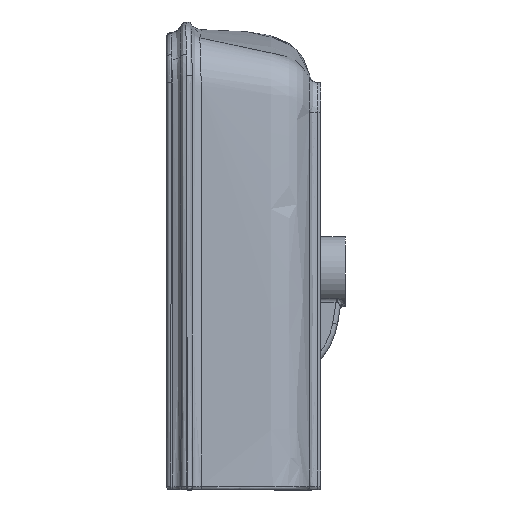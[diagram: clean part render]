
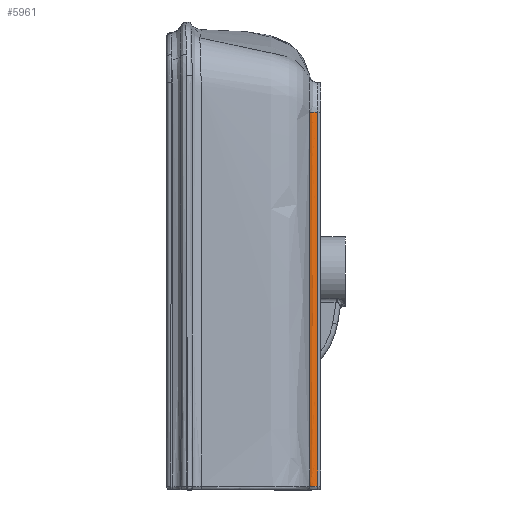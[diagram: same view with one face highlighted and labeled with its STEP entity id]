
A CAD part, left-side view. The second image highlights one B-rep face of the part: STEP entity #5961.
In plain terms, the highlighted free-form (B-spline) face has degree [3, 2] with [6, 3] control points.
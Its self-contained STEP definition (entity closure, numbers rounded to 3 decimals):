
#24 = CARTESIAN_POINT ( 'NONE',  ( -406.659, -144.322, -218.257 ) ) ;
#140 = EDGE_CURVE ( 'NONE', #6174, #13258, #384, .T. ) ;
#217 = CARTESIAN_POINT ( 'NONE',  ( -400., -145.471, 96.431 ) ) ;
#384 = CIRCLE ( 'NONE', #8753, 8. ) ;
#801 = CARTESIAN_POINT ( 'NONE',  ( -400., -152.213, 34.667 ) ) ;
#869 = ORIENTED_EDGE ( 'NONE', *, *, #10514, .F. ) ;
#1191 = CARTESIAN_POINT ( 'NONE',  ( -406.703, -144.339, -92.172 ) ) ;
#1506 = CARTESIAN_POINT ( 'NONE',  ( -406.667, -144.325, 34.659 ) ) ;
#1567 = B_SPLINE_CURVE_WITH_KNOTS ( 'NONE', 3,
 ( #11290, #10249, #801, #4994, #11361, #3963 ),
 .UNSPECIFIED., .F., .F.,
 ( 4, 2, 4 ),
 ( 0., 0.188, 0.376 ),
 .UNSPECIFIED. ) ;
#1957 = CARTESIAN_POINT ( 'NONE',  ( -400.966, -148.391, -216. ) ) ;
#2079 = CARTESIAN_POINT ( 'NONE',  ( -405.744, -144.52, -216.001 ) ) ;
#2338 = CARTESIAN_POINT ( 'NONE',  ( -400., -152.221, -155.215 ) ) ;
#2521 = CARTESIAN_POINT ( 'NONE',  ( -406.682, -144.331, -153.336 ) ) ;
#2832 = ORIENTED_EDGE ( 'NONE', *, *, #7782, .T. ) ;
#2915 = CARTESIAN_POINT ( 'NONE',  ( -400.205, -150.35, -216. ) ) ;
#2991 = EDGE_LOOP ( 'NONE', ( #869, #2832, #11292, #13119 ) ) ;
#3045 = CARTESIAN_POINT ( 'NONE',  ( -400.042, -151.267, -216. ) ) ;
#3181 = CARTESIAN_POINT ( 'NONE',  ( -400., -145.454, -218.257 ) ) ;
#3372 = CARTESIAN_POINT ( 'NONE',  ( -400., -152.18, 96.957 ) ) ;
#3563 = CARTESIAN_POINT ( 'NONE',  ( -406.66, -144.322, -216.001 ) ) ;
#3589 = CARTESIAN_POINT ( 'NONE',  ( -400., -152.091, 160. ) ) ;
#3963 = CARTESIAN_POINT ( 'NONE',  ( -400., -152.209, -216. ) ) ;
#4020 = CARTESIAN_POINT ( 'NONE',  ( -400.568, -149.24, -216. ) ) ;
#4048 =( BOUNDED_SURFACE ( )  B_SPLINE_SURFACE ( 3, 2, ( 
 ( #5319, #9600, #4345 ),
 ( #3372, #217, #10575 ),
 ( #11743, #4282, #9729 ),
 ( #12057, #8491, #1191 ),
 ( #2338, #12643, #12708 ),
 ( #10705, #3181, #24 ) ),
 .UNSPECIFIED., .F., .F., .T. ) 
 B_SPLINE_SURFACE_WITH_KNOTS ( ( 4, 2, 4 ),
 ( 3, 3 ),
 ( 0., 0.189, 0.378 ),
 ( 0., 1. ),
 .UNSPECIFIED. ) 
 GEOMETRIC_REPRESENTATION_ITEM ( )  RATIONAL_B_SPLINE_SURFACE ( (
 ( 1., 0.772, 1.),
 ( 1., 0.766, 1.),
 ( 1., 0.764, 1.),
 ( 1., 0.762, 1.),
 ( 1., 0.763, 1.),
 ( 1., 0.764, 1.) ) ) 
 REPRESENTATION_ITEM ( '' )  SURFACE ( )  );
#4086 = CARTESIAN_POINT ( 'NONE',  ( -401.317, -147.787, -216. ) ) ;
#4148 = CARTESIAN_POINT ( 'NONE',  ( -402.04, -146.868, -216.001 ) ) ;
#4207 = VERTEX_POINT ( 'NONE', #5335 ) ;
#4266 = DIRECTION ( 'NONE',  ( 0., -1., 0.001 ) ) ;
#4282 = CARTESIAN_POINT ( 'NONE',  ( -400., -145.451, 33.852 ) ) ;
#4345 = CARTESIAN_POINT ( 'NONE',  ( -406.452, -144.242, 159.989 ) ) ;
#4595 = CARTESIAN_POINT ( 'NONE',  ( -406.607, -144.3, 97.324 ) ) ;
#4994 = CARTESIAN_POINT ( 'NONE',  ( -400., -152.233, -90.667 ) ) ;
#5119 = CARTESIAN_POINT ( 'NONE',  ( -404.868, -144.833, -216.001 ) ) ;
#5183 = CARTESIAN_POINT ( 'NONE',  ( -406.195, -144.401, -216.001 ) ) ;
#5300 = CARTESIAN_POINT ( 'NONE',  ( -408., -152.091, 160. ) ) ;
#5319 = CARTESIAN_POINT ( 'NONE',  ( -400., -152.091, 160. ) ) ;
#5335 = CARTESIAN_POINT ( 'NONE',  ( -400., -152.209, -216. ) ) ;
#5961 = ADVANCED_FACE ( 'NONE', ( #7252 ), #4048, .F. ) ;
#6099 = CARTESIAN_POINT ( 'NONE',  ( -403.241, -145.762, -216.001 ) ) ;
#6174 = VERTEX_POINT ( 'NONE', #3589 ) ;
#6407 = DIRECTION ( 'NONE',  ( 0., 0.001, 1. ) ) ;
#6777 = VERTEX_POINT ( 'NONE', #11855 ) ;
#7065 = CARTESIAN_POINT ( 'NONE',  ( -406.452, -144.242, 159.989 ) ) ;
#7186 = CARTESIAN_POINT ( 'NONE',  ( -400., -151.737, -216. ) ) ;
#7252 = FACE_OUTER_BOUND ( 'NONE', #2991, .T. ) ;
#7311 = CARTESIAN_POINT ( 'NONE',  ( -400.858, -148.597, -216. ) ) ;
#7782 = EDGE_CURVE ( 'NONE', #6777, #4207, #7967, .T. ) ;
#7967 = B_SPLINE_CURVE_WITH_KNOTS ( 'NONE', 3,
 ( #10308, #5183, #2079, #5119, #9402, #13611, #6099, #9467, #9199, #11478, #4148, #11345, #4086, #1957, #7311, #9342, #4020, #12570, #2915, #3045, #7186, #13544 ),
 .UNSPECIFIED., .F., .F.,
 ( 4, 2, 2, 2, 2, 2, 2, 2, 2, 2, 4 ),
 ( 0., 0.001, 0.003, 0.004, 0.005, 0.006, 0.007, 0.008, 0.008, 0.01, 0.011 ),
 .UNSPECIFIED. ) ;
#8491 = CARTESIAN_POINT ( 'NONE',  ( -400., -145.44, -92.231 ) ) ;
#8753 = AXIS2_PLACEMENT_3D ( 'NONE', #5300, #6407, #4266 ) ;
#8955 = CARTESIAN_POINT ( 'NONE',  ( -406.452, -144.242, 159.989 ) ) ;
#9114 = B_SPLINE_CURVE_WITH_KNOTS ( 'NONE', 3,
 ( #3563, #2521, #9925, #1506, #4595, #8955 ),
 .UNSPECIFIED., .F., .F.,
 ( 4, 2, 4 ),
 ( 0.004, 0.192, 0.38 ),
 .UNSPECIFIED. ) ;
#9199 = CARTESIAN_POINT ( 'NONE',  ( -402.532, -146.365, -216.001 ) ) ;
#9342 = CARTESIAN_POINT ( 'NONE',  ( -400.659, -149.022, -216. ) ) ;
#9402 = CARTESIAN_POINT ( 'NONE',  ( -404.441, -145.029, -216.001 ) ) ;
#9467 = CARTESIAN_POINT ( 'NONE',  ( -402.705, -146.208, -216.001 ) ) ;
#9600 = CARTESIAN_POINT ( 'NONE',  ( -400., -145.515, 159.991 ) ) ;
#9729 = CARTESIAN_POINT ( 'NONE',  ( -406.668, -144.325, 33.911 ) ) ;
#9925 = CARTESIAN_POINT ( 'NONE',  ( -406.703, -144.339, -90.671 ) ) ;
#10249 = CARTESIAN_POINT ( 'NONE',  ( -400., -152.18, 97.333 ) ) ;
#10308 = CARTESIAN_POINT ( 'NONE',  ( -406.66, -144.322, -216.001 ) ) ;
#10514 = EDGE_CURVE ( 'NONE', #6777, #13258, #9114, .T. ) ;
#10575 = CARTESIAN_POINT ( 'NONE',  ( -406.608, -144.301, 96.95 ) ) ;
#10705 = CARTESIAN_POINT ( 'NONE',  ( -400., -152.209, -218.258 ) ) ;
#11290 = CARTESIAN_POINT ( 'NONE',  ( -400., -152.091, 160. ) ) ;
#11292 = ORIENTED_EDGE ( 'NONE', *, *, #13295, .F. ) ;
#11345 = CARTESIAN_POINT ( 'NONE',  ( -401.585, -147.406, -216. ) ) ;
#11361 = CARTESIAN_POINT ( 'NONE',  ( -400., -152.221, -153.333 ) ) ;
#11478 = CARTESIAN_POINT ( 'NONE',  ( -402.2, -146.694, -216.001 ) ) ;
#11743 = CARTESIAN_POINT ( 'NONE',  ( -400., -152.213, 33.914 ) ) ;
#11855 = CARTESIAN_POINT ( 'NONE',  ( -406.66, -144.322, -216.001 ) ) ;
#12057 = CARTESIAN_POINT ( 'NONE',  ( -400., -152.233, -92.172 ) ) ;
#12570 = CARTESIAN_POINT ( 'NONE',  ( -400.326, -149.901, -216. ) ) ;
#12643 = CARTESIAN_POINT ( 'NONE',  ( -400., -145.447, -155.14 ) ) ;
#12708 = CARTESIAN_POINT ( 'NONE',  ( -406.682, -144.33, -155.214 ) ) ;
#13119 = ORIENTED_EDGE ( 'NONE', *, *, #140, .T. ) ;
#13258 = VERTEX_POINT ( 'NONE', #7065 ) ;
#13295 = EDGE_CURVE ( 'NONE', #6174, #4207, #1567, .T. ) ;
#13544 = CARTESIAN_POINT ( 'NONE',  ( -400., -152.209, -216. ) ) ;
#13611 = CARTESIAN_POINT ( 'NONE',  ( -403.624, -145.496, -216.001 ) ) ;
